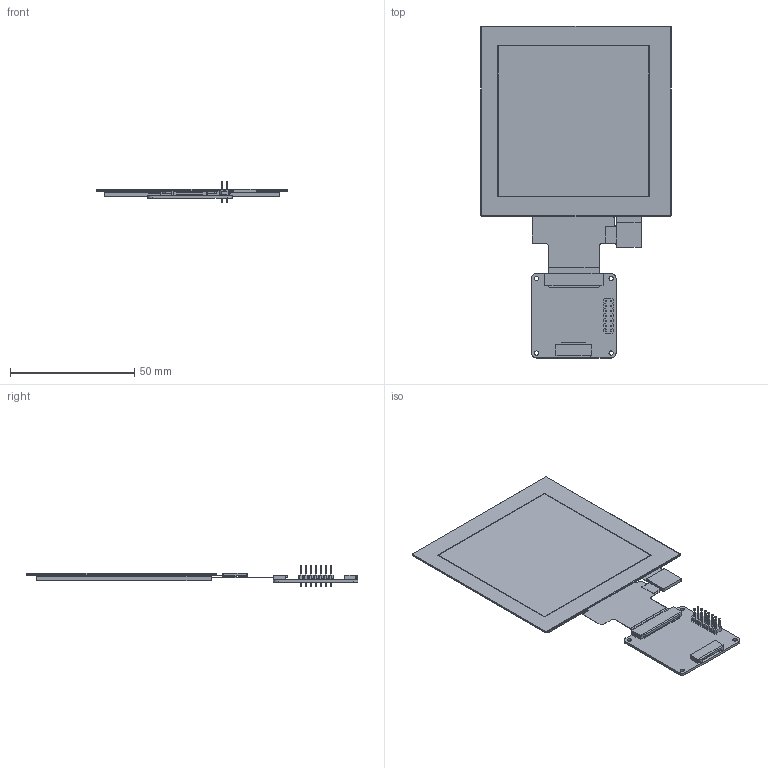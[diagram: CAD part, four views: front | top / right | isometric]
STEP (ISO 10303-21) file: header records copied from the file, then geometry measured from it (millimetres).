
FILE_DESCRIPTION((''),'2;1');
FILE_NAME('TS034WVS02CP-B1477A-V00-241209','2024-12-09T11:21:23',('Shaozi'),(''),'CREO PARAMETRIC BY PTC INC, 2024063','CREO PARAMETRIC BY PTC INC, 2024063','');
FILE_SCHEMA(('AUTOMOTIVE_DESIGN { 1 0 10303 214 1 1 1 1 }'));
Length unit declared in the file: millimetre
Products named in the file (1): TS034WVS02CP-B1477A-V00-241209
Bounding box: 76.5 x 133.48 x 8.8 mm (x, y, z)
Surface area: 22725.6 mm2 (no closed solid volume)
Topology: 0 solids, 10 shells, 402 faces, 1175 edges, 796 vertices
Faces by surface type: plane 347, cylinder 47, bspline 8
Entity records: 15488 total; most frequent: CARTESIAN_POINT 2673, ORIENTED_EDGE 2182, DIRECTION 2081, EDGE_CURVE 1175, VECTOR 1057, LINE 1057, VERTEX_POINT 796, AXIS2_PLACEMENT_3D 512
